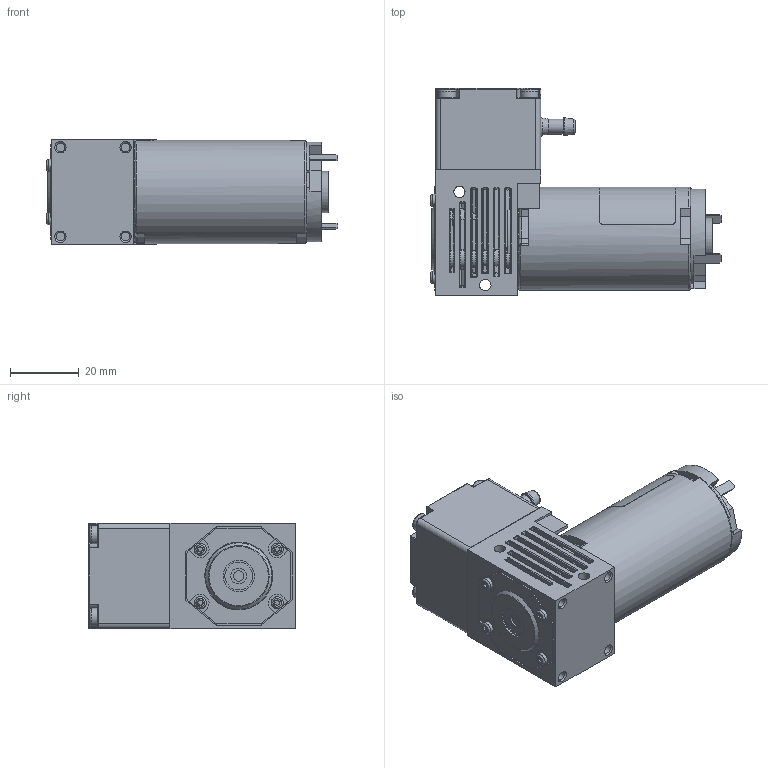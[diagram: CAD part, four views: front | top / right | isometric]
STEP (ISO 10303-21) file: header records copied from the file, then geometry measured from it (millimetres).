
FILE_DESCRIPTION (( 'STEP AP203' ), '1' );
FILE_NAME ('64100003-18-00.STEP', '2018-03-02T12:55:41', ( 'admin' ), ( 'Gardner Denver' ), 'SwSTEP 2.0', 'SolidWorks 2017', '' );
FILE_SCHEMA (( 'CONFIG_CONTROL_DESIGN' ));
Length unit declared in the file: millimetre
Products named in the file (1): 64100003-18-00
Bounding box: 84.65 x 60.2 x 30.7 mm (x, y, z)
Volume: 86841 mm3; surface area: 17753.6 mm2
Topology: 1 solids, 4 shells, 1327 faces, 3464 edges, 2114 vertices
Faces by surface type: plane 694, bspline 309, cylinder 278, cone 46
Full cylindrical faces by diameter (mm): 1.95 x1, 2.5 x4, 2.995 x1, 3.2 x2, 3.3 x3, 3.5 x4, 4.4 x2, 4.6 x1, 5.2 x2, 5.3 x4, 8.1 x1, 9.1 x1, 12 x1, 29 x1, 30 x1
Entity records: 47742 total; most frequent: CARTESIAN_POINT 17916, ORIENTED_EDGE 6590, DIRECTION 5516, EDGE_CURVE 3295, VECTOR 2150, LINE 2150, VERTEX_POINT 2087, AXIS2_PLACEMENT_3D 1683
